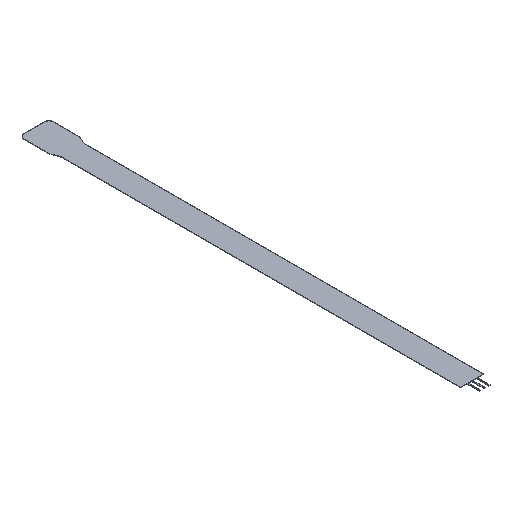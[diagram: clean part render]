
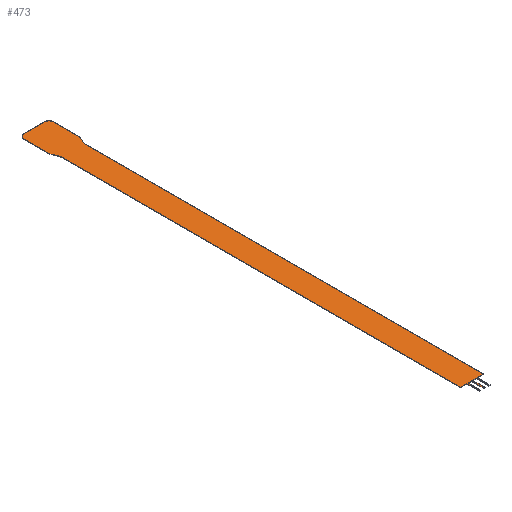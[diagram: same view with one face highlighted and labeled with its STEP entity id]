
A CAD part, isometric view. The second image highlights one B-rep face of the part: STEP entity #473.
In plain terms, the highlighted planar face has unit normal (0, 0, 1).
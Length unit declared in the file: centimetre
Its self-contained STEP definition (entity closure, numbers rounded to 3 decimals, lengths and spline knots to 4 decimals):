
#156=VERTEX_POINT('',#1663);
#157=VERTEX_POINT('',#1664);
#161=VERTEX_POINT('',#1674);
#181=VERTEX_POINT('',#1718);
#182=VERTEX_POINT('',#1722);
#183=VERTEX_POINT('',#1723);
#184=VERTEX_POINT('',#1728);
#185=VERTEX_POINT('',#1732);
#186=VERTEX_POINT('',#1736);
#187=VERTEX_POINT('',#1740);
#188=VERTEX_POINT('',#1744);
#189=VERTEX_POINT('',#1748);
#190=VERTEX_POINT('',#1752);
#191=VERTEX_POINT('',#1756);
#192=VERTEX_POINT('',#1760);
#193=VERTEX_POINT('',#1764);
#194=VERTEX_POINT('',#1768);
#195=VERTEX_POINT('',#1772);
#196=VERTEX_POINT('',#1776);
#197=VERTEX_POINT('',#1780);
#198=VERTEX_POINT('',#1786);
#199=VERTEX_POINT('',#1790);
#200=CIRCLE('',#1127,0.2);
#203=CIRCLE('',#1133,0.2);
#204=EDGE_CURVE('',#156,#157,#200,.T.);
#210=EDGE_CURVE('',#161,#156,#804,.T.);
#231=EDGE_CURVE('',#181,#161,#203,.T.);
#233=EDGE_CURVE('',#182,#183,#825,.T.);
#236=EDGE_CURVE('',#183,#184,#828,.T.);
#238=EDGE_CURVE('',#184,#185,#830,.T.);
#240=EDGE_CURVE('',#185,#186,#832,.T.);
#242=EDGE_CURVE('',#186,#187,#834,.T.);
#244=EDGE_CURVE('',#187,#188,#836,.T.);
#246=EDGE_CURVE('',#188,#189,#838,.T.);
#248=EDGE_CURVE('',#189,#190,#840,.T.);
#250=EDGE_CURVE('',#190,#191,#842,.T.);
#252=EDGE_CURVE('',#191,#192,#844,.T.);
#254=EDGE_CURVE('',#192,#193,#846,.T.);
#256=EDGE_CURVE('',#193,#194,#848,.T.);
#258=EDGE_CURVE('',#194,#195,#850,.T.);
#260=EDGE_CURVE('',#195,#196,#852,.T.);
#262=EDGE_CURVE('',#196,#197,#854,.T.);
#264=EDGE_CURVE('',#197,#181,#856,.T.);
#265=EDGE_CURVE('',#157,#198,#857,.T.);
#267=EDGE_CURVE('',#198,#199,#859,.T.);
#269=EDGE_CURVE('',#199,#182,#861,.T.);
#380=ORIENTED_EDGE('',*,*,#204,.F.);
#381=ORIENTED_EDGE('',*,*,#210,.F.);
#382=ORIENTED_EDGE('',*,*,#231,.F.);
#383=ORIENTED_EDGE('',*,*,#264,.F.);
#384=ORIENTED_EDGE('',*,*,#262,.F.);
#385=ORIENTED_EDGE('',*,*,#260,.F.);
#386=ORIENTED_EDGE('',*,*,#258,.F.);
#387=ORIENTED_EDGE('',*,*,#256,.F.);
#388=ORIENTED_EDGE('',*,*,#254,.F.);
#389=ORIENTED_EDGE('',*,*,#252,.F.);
#390=ORIENTED_EDGE('',*,*,#250,.F.);
#391=ORIENTED_EDGE('',*,*,#248,.F.);
#392=ORIENTED_EDGE('',*,*,#246,.F.);
#393=ORIENTED_EDGE('',*,*,#244,.F.);
#394=ORIENTED_EDGE('',*,*,#242,.F.);
#395=ORIENTED_EDGE('',*,*,#240,.F.);
#396=ORIENTED_EDGE('',*,*,#238,.F.);
#397=ORIENTED_EDGE('',*,*,#236,.F.);
#398=ORIENTED_EDGE('',*,*,#233,.F.);
#399=ORIENTED_EDGE('',*,*,#269,.F.);
#400=ORIENTED_EDGE('',*,*,#267,.F.);
#401=ORIENTED_EDGE('',*,*,#265,.F.);
#425=EDGE_LOOP('',(#380,#381,#382,#383,#384,#385,#386,#387,#388,#389,#390,
#391,#392,#393,#394,#395,#396,#397,#398,#399,#400,#401));
#449=FACE_BOUND('',#425,.T.);
#473=ADVANCED_FACE('',(#449),#1312,.T.);
#804=LINE('',#1675,#1229);
#825=LINE('',#1721,#1250);
#828=LINE('',#1727,#1253);
#830=LINE('',#1731,#1255);
#832=LINE('',#1735,#1257);
#834=LINE('',#1739,#1259);
#836=LINE('',#1743,#1261);
#838=LINE('',#1747,#1263);
#840=LINE('',#1751,#1265);
#842=LINE('',#1755,#1267);
#844=LINE('',#1759,#1269);
#846=LINE('',#1763,#1271);
#848=LINE('',#1767,#1273);
#850=LINE('',#1771,#1275);
#852=LINE('',#1775,#1277);
#854=LINE('',#1779,#1279);
#856=LINE('',#1783,#1281);
#857=LINE('',#1785,#1282);
#859=LINE('',#1789,#1284);
#861=LINE('',#1793,#1286);
#1127=AXIS2_PLACEMENT_3D('',#1662,#1451,#1452);
#1133=AXIS2_PLACEMENT_3D('',#1717,#1485,#1486);
#1153=AXIS2_PLACEMENT_3D('',#1794,#1544,$);
#1229=VECTOR('',#1460,1.);
#1250=VECTOR('',#1489,1.);
#1253=VECTOR('',#1493,1.);
#1255=VECTOR('',#1496,1.);
#1257=VECTOR('',#1499,1.);
#1259=VECTOR('',#1502,1.);
#1261=VECTOR('',#1505,1.);
#1263=VECTOR('',#1508,1.);
#1265=VECTOR('',#1511,1.);
#1267=VECTOR('',#1514,1.);
#1269=VECTOR('',#1517,1.);
#1271=VECTOR('',#1520,1.);
#1273=VECTOR('',#1523,1.);
#1275=VECTOR('',#1526,1.);
#1277=VECTOR('',#1529,1.);
#1279=VECTOR('',#1532,1.);
#1281=VECTOR('',#1535,1.);
#1282=VECTOR('',#1537,1.);
#1284=VECTOR('',#1540,1.);
#1286=VECTOR('',#1543,1.);
#1312=PLANE('',#1153);
#1451=DIRECTION('',(0.,0.,-1.));
#1452=DIRECTION('',(0.141,0.141,0.));
#1460=DIRECTION('',(1.,0.,0.));
#1485=DIRECTION('',(0.,0.,-1.));
#1486=DIRECTION('',(-0.141,0.141,0.));
#1489=DIRECTION('',(-1.,0.,0.));
#1493=DIRECTION('',(0.,-1.,0.));
#1496=DIRECTION('',(-1.,0.,0.));
#1499=DIRECTION('',(0.,1.,0.));
#1502=DIRECTION('',(-1.,0.,0.));
#1505=DIRECTION('',(0.,-1.,0.));
#1508=DIRECTION('',(-1.,0.,0.));
#1511=DIRECTION('',(0.,1.,0.));
#1514=DIRECTION('',(-1.,0.,0.));
#1517=DIRECTION('',(0.,-1.,0.));
#1520=DIRECTION('',(-1.,0.,0.));
#1523=DIRECTION('',(0.,1.,0.));
#1526=DIRECTION('',(-1.,0.,0.));
#1529=DIRECTION('',(0.,1.,0.));
#1532=DIRECTION('',(-0.351,0.936,0.));
#1535=DIRECTION('',(0.,1.,0.));
#1537=DIRECTION('',(0.,-1.,0.));
#1540=DIRECTION('',(-0.351,-0.936,0.));
#1543=DIRECTION('',(0.,-1.,0.));
#1544=DIRECTION('',(0.,0.,1.));
#1662=CARTESIAN_POINT('',(-0.05,20.65,0.02));
#1663=CARTESIAN_POINT('',(-0.05,20.85,0.02));
#1664=CARTESIAN_POINT('',(0.15,20.65,0.02));
#1674=CARTESIAN_POINT('',(-1.05,20.85,0.02));
#1675=CARTESIAN_POINT('',(0.15,20.85,0.02));
#1717=CARTESIAN_POINT('',(-1.05,20.65,0.02));
#1718=CARTESIAN_POINT('',(-1.25,20.65,0.02));
#1721=CARTESIAN_POINT('',(-0.3,0.,0.02));
#1722=CARTESIAN_POINT('',(0.,0.,0.02));
#1723=CARTESIAN_POINT('',(-0.3,0.,0.02));
#1727=CARTESIAN_POINT('',(-0.3,-0.6,0.02));
#1728=CARTESIAN_POINT('',(-0.3,-0.6,0.02));
#1731=CARTESIAN_POINT('',(-0.36,-0.6,0.02));
#1732=CARTESIAN_POINT('',(-0.36,-0.6,0.02));
#1735=CARTESIAN_POINT('',(-0.36,0.,0.02));
#1736=CARTESIAN_POINT('',(-0.36,0.,0.02));
#1739=CARTESIAN_POINT('',(-0.52,0.,0.02));
#1740=CARTESIAN_POINT('',(-0.52,0.,0.02));
#1743=CARTESIAN_POINT('',(-0.52,-0.6,0.02));
#1744=CARTESIAN_POINT('',(-0.52,-0.6,0.02));
#1747=CARTESIAN_POINT('',(-0.58,-0.6,0.02));
#1748=CARTESIAN_POINT('',(-0.58,-0.6,0.02));
#1751=CARTESIAN_POINT('',(-0.58,0.,0.02));
#1752=CARTESIAN_POINT('',(-0.58,0.,0.02));
#1755=CARTESIAN_POINT('',(-0.74,0.,0.02));
#1756=CARTESIAN_POINT('',(-0.74,0.,0.02));
#1759=CARTESIAN_POINT('',(-0.74,-0.6,0.02));
#1760=CARTESIAN_POINT('',(-0.74,-0.6,0.02));
#1763=CARTESIAN_POINT('',(-0.8,-0.6,0.02));
#1764=CARTESIAN_POINT('',(-0.8,-0.6,0.02));
#1767=CARTESIAN_POINT('',(-0.8,0.,0.02));
#1768=CARTESIAN_POINT('',(-0.8,0.,0.02));
#1771=CARTESIAN_POINT('',(-1.1,0.,0.02));
#1772=CARTESIAN_POINT('',(-1.1,0.,0.02));
#1775=CARTESIAN_POINT('',(-1.1,19.,0.02));
#1776=CARTESIAN_POINT('',(-1.1,19.,0.02));
#1779=CARTESIAN_POINT('',(-1.25,19.4,0.02));
#1780=CARTESIAN_POINT('',(-1.25,19.4,0.02));
#1783=CARTESIAN_POINT('',(-1.25,20.85,0.02));
#1785=CARTESIAN_POINT('',(0.15,19.4,0.02));
#1786=CARTESIAN_POINT('',(0.15,19.4,0.02));
#1789=CARTESIAN_POINT('',(0.,19.,0.02));
#1790=CARTESIAN_POINT('',(0.,19.,0.02));
#1793=CARTESIAN_POINT('',(0.,0.,0.02));
#1794=CARTESIAN_POINT('',(-0.55,9.6913,0.02));
